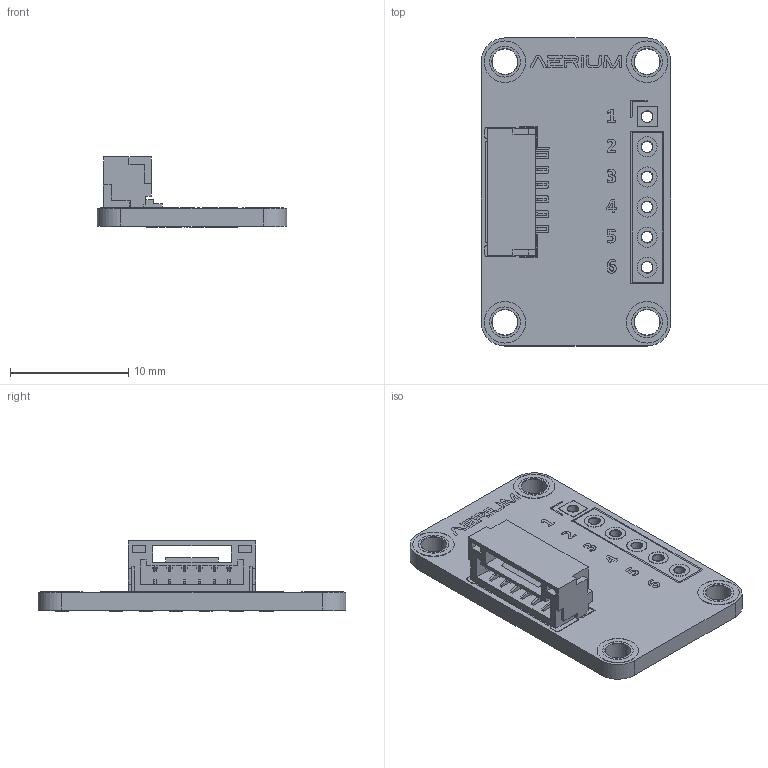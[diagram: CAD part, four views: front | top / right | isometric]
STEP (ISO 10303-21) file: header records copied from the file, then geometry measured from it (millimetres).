
FILE_DESCRIPTION(/* description */ ('KiCad electronic assembly'),/* implementation_level */ '2;1');
FILE_NAME(/* name */ 'Aerium_6P_JST_GH_Breakout_Board_3D_Model.step',/* time_stamp */ '2026-09-20T15:37:31+03:00',/* author */ (''),/* organization */ (''),/* preprocessor_version */ 'ST-DEVELOPER v20.1',/* originating_system */ 'Autodesk Translation Framework v15.8.0.0',/* authorisation */ '');
FILE_SCHEMA (('AUTOMOTIVE_DESIGN { 1 0 10303 214 3 1 1 }'));
Length unit declared in the file: millimetre
Products named in the file (6): 2026-09-20-12-35-17-325; 2026-09-20-12-35-17-326; 2026-09-20-12-35-17-328; 2026-09-20-12-35-17-329; 2026-09-20-12-35-17-330; 2026-09-20-12-35-17-331
Assembly tree (5 placements, depth 2):
  2026-09-20-12-35-17-325
    2026-09-20-12-35-17-326
    2026-09-20-12-35-17-328
    2026-09-20-12-35-17-329
    2026-09-20-12-35-17-330
    2026-09-20-12-35-17-331
Bounding box: 16 x 26 x 5.92 mm (x, y, z)
Volume: 703.3 mm3; surface area: 1717.1 mm2
Topology: 48 solids, 79 shells, 554 faces, 2178 edges, 1761 vertices
Faces by surface type: plane 434, cylinder 120
Full cylindrical faces by diameter (mm): 0.95 x18, 1 x12, 1.7 x10, 2.15 x20, 2.2 x8, 2.6 x8, 3.5 x8
Entity records: 23601 total; most frequent: CARTESIAN_POINT 4505, DIRECTION 3663, ORIENTED_EDGE 3415, EDGE_CURVE 2178, LINE 1825, VECTOR 1825, VERTEX_POINT 1761, AXIS2_PLACEMENT_3D 919
